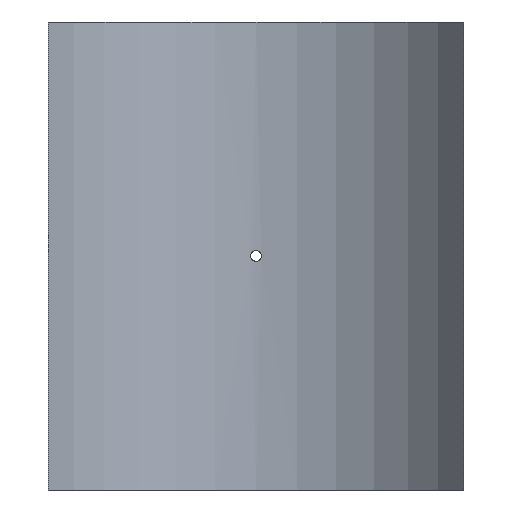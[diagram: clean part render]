
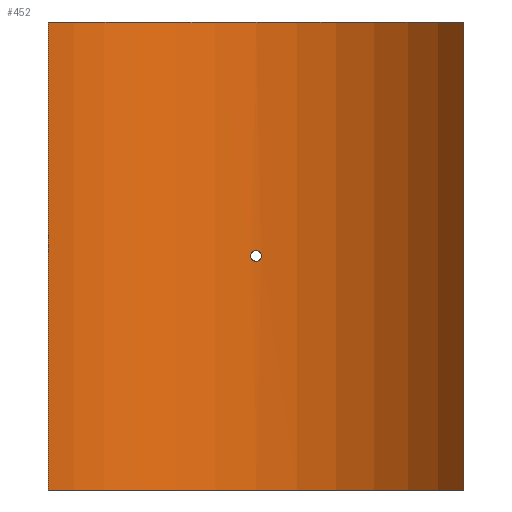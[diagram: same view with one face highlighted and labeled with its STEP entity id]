
A CAD part, front view. The second image highlights one B-rep face of the part: STEP entity #452.
In plain terms, the highlighted cylindrical face has radius 225 mm (diameter 450 mm), a partial arc.
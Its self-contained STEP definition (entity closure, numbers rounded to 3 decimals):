
#19=B_SPLINE_CURVE_WITH_KNOTS('',3,(#788,#789,#790,#791,#792,#793,#794,
#795,#796,#797,#798,#799,#800,#801,#802,#803,#804,#805,#806,#807,#808,#809,
#810,#811,#812,#813,#814,#815,#816,#817,#818,#819,#820,#821),
 .UNSPECIFIED.,.T.,.F.,(4,2,2,2,2,2,2,2,2,2,2,2,2,2,2,2,4),(0.,0.181,
0.362,0.542,0.723,0.904,
1.085,1.266,1.447,1.627,1.808,
1.989,2.17,2.351,2.531,2.712,
2.893),.UNSPECIFIED.);
#43=LINE('',#1065,#62);
#44=LINE('',#1068,#63);
#62=VECTOR('',#661,10.);
#63=VECTOR('',#664,10.);
#76=CYLINDRICAL_SURFACE('',#530,225.);
#88=FACE_BOUND('',#167,.T.);
#127=FACE_OUTER_BOUND('',#166,.T.);
#166=EDGE_LOOP('',(#405,#406,#407,#408));
#167=EDGE_LOOP('',(#409));
#201=CIRCLE('',#529,225.);
#202=CIRCLE('',#531,225.);
#219=VERTEX_POINT('',#786);
#242=VERTEX_POINT('',#1058);
#243=VERTEX_POINT('',#1060);
#244=VERTEX_POINT('',#1064);
#245=VERTEX_POINT('',#1066);
#267=EDGE_CURVE('',#219,#219,#19,.T.);
#299=EDGE_CURVE('',#242,#243,#201,.T.);
#301=EDGE_CURVE('',#244,#242,#43,.T.);
#302=EDGE_CURVE('',#245,#244,#202,.T.);
#303=EDGE_CURVE('',#245,#243,#44,.T.);
#405=ORIENTED_EDGE('',*,*,#301,.F.);
#406=ORIENTED_EDGE('',*,*,#302,.F.);
#407=ORIENTED_EDGE('',*,*,#303,.T.);
#408=ORIENTED_EDGE('',*,*,#299,.F.);
#409=ORIENTED_EDGE('',*,*,#267,.T.);
#452=ADVANCED_FACE('',(#127,#88),#76,.F.);
#529=AXIS2_PLACEMENT_3D('',#1061,#656,#657);
#530=AXIS2_PLACEMENT_3D('',#1063,#659,#660);
#531=AXIS2_PLACEMENT_3D('',#1067,#662,#663);
#656=DIRECTION('center_axis',(0.,0.,1.));
#657=DIRECTION('ref_axis',(0.829,0.559,0.));
#659=DIRECTION('center_axis',(0.,0.,1.));
#660=DIRECTION('ref_axis',(0.829,0.559,0.));
#661=DIRECTION('',(0.,0.,-1.));
#662=DIRECTION('center_axis',(0.,0.,-1.));
#663=DIRECTION('ref_axis',(0.829,0.559,0.));
#664=DIRECTION('',(0.,0.,-1.));
#786=CARTESIAN_POINT('',(4.8,224.949,0.));
#788=CARTESIAN_POINT('Ctrl Pts',(4.8,224.949,0.));
#789=CARTESIAN_POINT('Ctrl Pts',(4.8,224.949,-0.603));
#790=CARTESIAN_POINT('Ctrl Pts',(4.68,224.951,-1.246));
#791=CARTESIAN_POINT('Ctrl Pts',(4.19,224.961,-2.428));
#792=CARTESIAN_POINT('Ctrl Pts',(3.82,224.968,-2.968));
#793=CARTESIAN_POINT('Ctrl Pts',(2.968,224.981,-3.82));
#794=CARTESIAN_POINT('Ctrl Pts',(2.428,224.988,-4.19));
#795=CARTESIAN_POINT('Ctrl Pts',(1.246,224.997,-4.68));
#796=CARTESIAN_POINT('Ctrl Pts',(0.603,225.,-4.8));
#797=CARTESIAN_POINT('Ctrl Pts',(-0.603,225.,-4.8));
#798=CARTESIAN_POINT('Ctrl Pts',(-1.246,224.997,-4.68));
#799=CARTESIAN_POINT('Ctrl Pts',(-2.428,224.988,-4.19));
#800=CARTESIAN_POINT('Ctrl Pts',(-2.968,224.981,-3.82));
#801=CARTESIAN_POINT('Ctrl Pts',(-3.82,224.968,-2.968));
#802=CARTESIAN_POINT('Ctrl Pts',(-4.19,224.961,-2.428));
#803=CARTESIAN_POINT('Ctrl Pts',(-4.68,224.951,-1.246));
#804=CARTESIAN_POINT('Ctrl Pts',(-4.8,224.949,-0.603));
#805=CARTESIAN_POINT('Ctrl Pts',(-4.8,224.949,0.603));
#806=CARTESIAN_POINT('Ctrl Pts',(-4.68,224.951,1.246));
#807=CARTESIAN_POINT('Ctrl Pts',(-4.19,224.961,2.428));
#808=CARTESIAN_POINT('Ctrl Pts',(-3.82,224.968,2.968));
#809=CARTESIAN_POINT('Ctrl Pts',(-2.968,224.981,3.82));
#810=CARTESIAN_POINT('Ctrl Pts',(-2.428,224.988,4.19));
#811=CARTESIAN_POINT('Ctrl Pts',(-1.246,224.997,4.68));
#812=CARTESIAN_POINT('Ctrl Pts',(-0.603,225.,4.8));
#813=CARTESIAN_POINT('Ctrl Pts',(0.603,225.,4.8));
#814=CARTESIAN_POINT('Ctrl Pts',(1.246,224.997,4.68));
#815=CARTESIAN_POINT('Ctrl Pts',(2.428,224.988,4.19));
#816=CARTESIAN_POINT('Ctrl Pts',(2.968,224.981,3.82));
#817=CARTESIAN_POINT('Ctrl Pts',(3.82,224.968,2.968));
#818=CARTESIAN_POINT('Ctrl Pts',(4.19,224.961,2.428));
#819=CARTESIAN_POINT('Ctrl Pts',(4.68,224.951,1.246));
#820=CARTESIAN_POINT('Ctrl Pts',(4.8,224.949,0.603));
#821=CARTESIAN_POINT('Ctrl Pts',(4.8,224.949,0.));
#1058=CARTESIAN_POINT('',(186.5,125.868,-210.));
#1060=CARTESIAN_POINT('',(-186.5,125.868,-210.));
#1061=CARTESIAN_POINT('Origin',(0.,0.,
-210.));
#1063=CARTESIAN_POINT('Origin',(0.,0.,
0.));
#1064=CARTESIAN_POINT('',(186.5,125.868,210.));
#1065=CARTESIAN_POINT('',(186.5,125.868,0.));
#1066=CARTESIAN_POINT('',(-186.5,125.868,210.));
#1067=CARTESIAN_POINT('Origin',(0.,0.,
210.));
#1068=CARTESIAN_POINT('',(-186.5,125.868,0.));
